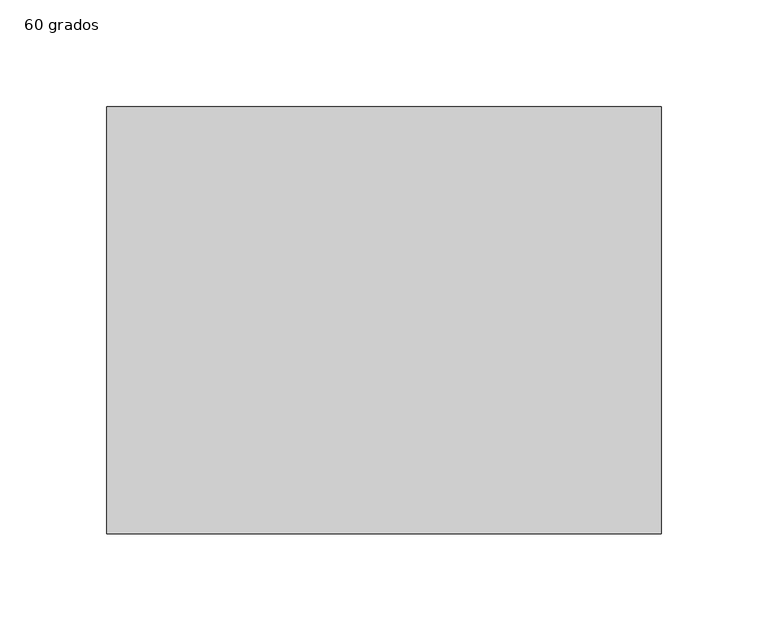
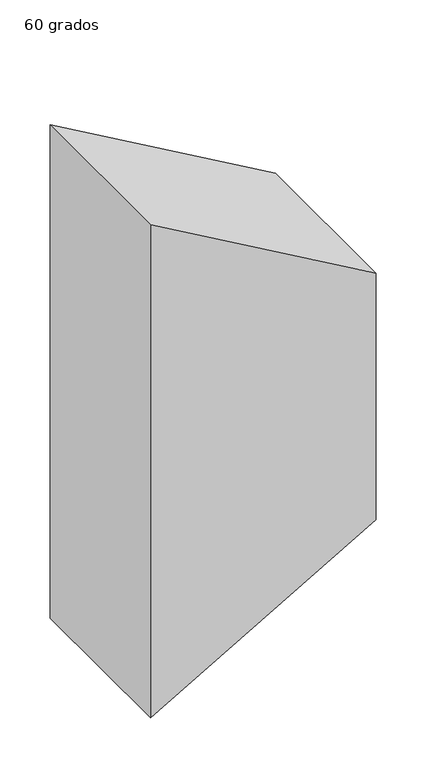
"""IFC4 building model written with IfcOpenShell, lengths in millimetres: duct fitting geometry, M_Transición rectangular - Ángulo : 60 grados."""

from ifc_helpers import new_model, si_unit, frame, origin, place, context, project, spatial, polyline, outline, extrude, source, transform, mapped, element, save


def duct_fitting_60_grados_30d7a151(model_context):
    return source(origin(), model_context, "Body", "SweptSolid", [
        extrude(outline(polyline([(300.0, 0.0), (-300.0, 0.0), (-150.0, 259.8076211), (150.0, 259.8076211), (300.0, 0.0)])), frame((0.0, -100.0, 0.0), z_axis=(0.0, 1.0, 0.0), x_axis=(0.0, 0.0, 1.0)), (0.0, 0.0, 1.0), 200.0),
    ])


if __name__ == "__main__":
    model = new_model("IFC4")
    model_context = context("Model", 3, world=origin())
    ifc_project = project(units=[si_unit("LENGTHUNIT", "METRE", prefix="MILLI")], contexts=[model_context])
    site = spatial("IfcSite", under=ifc_project)
    building = spatial("IfcBuilding", under=site)
    placement = place(None, origin())
    duct_fitting_60_grados_shape = duct_fitting_60_grados_30d7a151(model_context)
    element("IfcDuctFitting", 1, ObjectType="M_Transición rectangular - Ángulo : 60 grados", at=placement, inside=building, context=model_context, shape_type="MappedRepresentation", body=[
        mapped(duct_fitting_60_grados_shape, transform((0.0, 0.0, 0.0), x_axis=(1.0, 0.0, 0.0), y_axis=(0.0, 1.0, 0.0), z_axis=(0.0, 0.0, 1.0))),
    ])
    save(model, "model.ifc")
